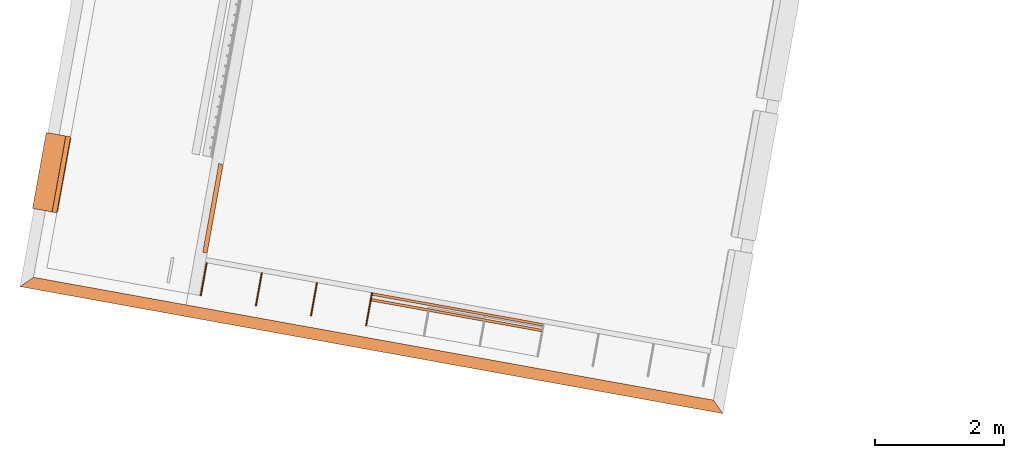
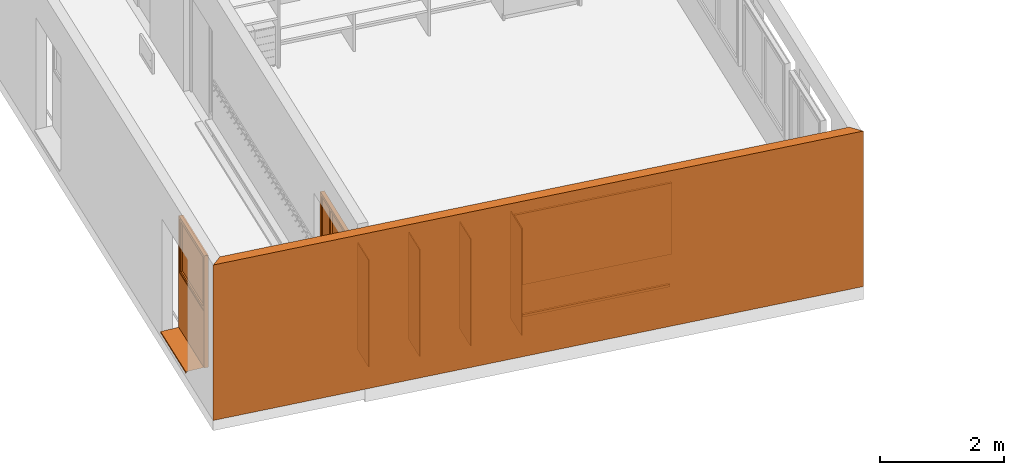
# One storey, part 8 of 52: 9 proxies.
"""IFC2X3 building model written with IfcOpenShell, lengths in metres."""

from ifc_helpers import new_model, entity, si_unit, converted_unit, derived_unit, money_unit, direction, frame, origin_with_axes, place, context, subcontext, project, spatial, polyline, outline, extrude, open_shell, faceted_brep, surface_model, source, transform, mapped, material, type_object, element, save


model = new_model("IFC2X3")

# Units and contexts
model_context = context("Model", 3, precision=1e-05, world=origin_with_axes(), true_north=direction((0.0, 1.0)))
body_context = subcontext(model_context, "Body", "Model", "MODEL_VIEW")
ifc_project = project(units=[si_unit("LENGTHUNIT", "METRE"), si_unit("AREAUNIT", "SQUARE_METRE"), si_unit("VOLUMEUNIT", "CUBIC_METRE"), converted_unit("PLANEANGLEUNIT", "DEGREE", entity("IfcPlaneAngleMeasure", 0.0174532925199), si_unit("PLANEANGLEUNIT", "RADIAN"), dimensions=[0, 0, 0, 0, 0, 0, 0]), money_unit("CHF"), converted_unit("TIMEUNIT", "Year", entity("IfcTimeMeasure", 31556926.0), si_unit("TIMEUNIT", "SECOND"), dimensions=[0, 0, 1, 0, 0, 0, 0]), si_unit("MASSUNIT", "GRAM", prefix="KILO"), si_unit("THERMODYNAMICTEMPERATUREUNIT", "DEGREE_CELSIUS"), si_unit("LUMINOUSINTENSITYUNIT", "LUMEN"), si_unit("ENERGYUNIT", "JOULE", prefix="MEGA"), derived_unit("THERMALCONDUCTANCEUNIT", [(si_unit("POWERUNIT", "WATT"), 1), (si_unit("LENGTHUNIT", "METRE"), -1), (si_unit("THERMODYNAMICTEMPERATUREUNIT", "KELVIN"), -1)]), derived_unit("SPECIFICHEATCAPACITYUNIT", [(si_unit("ENERGYUNIT", "JOULE"), 1), (si_unit("MASSUNIT", "GRAM", prefix="KILO"), -1), (si_unit("THERMODYNAMICTEMPERATUREUNIT", "KELVIN"), -1)]), derived_unit("MASSDENSITYUNIT", [(si_unit("MASSUNIT", "GRAM", prefix="KILO"), 1), (si_unit("VOLUMEUNIT", "CUBIC_METRE"), -1)])], contexts=[model_context])

# Site, building, storey
site_placement = place(None, frame((0.0, 0.0, 0.0), z_axis=(0.0, 0.0, 1.0), x_axis=(-0.177771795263, -0.984071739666, 0.0)))
site = spatial("IfcSite", under=ifc_project, at=site_placement, Name="Site", CompositionType="ELEMENT")
building_placement = place(site_placement, origin_with_axes())
building = spatial("IfcBuilding", under=site, at=building_placement, Name="Bâtiment", CompositionType="ELEMENT")
storey_placement = place(building_placement, frame((0.0, 0.0, 3.2), z_axis=(0.0, 0.0, 1.0), x_axis=(1.0, 0.0, 0.0)))
storey = spatial("IfcBuildingStorey", under=building, at=storey_placement, Name="R+1", CompositionType="ELEMENT", Elevation=3.2)

# Proxies
ifc_material_1 = material(Name="_BA banché RAL9007")
building_element_proxy_type_1 = type_object("IfcBuildingElementProxyType", Name="_M ext 18 +18 gris 360", PredefinedType="NOTDEFINED")
proxy_1_placement = place(storey_placement, frame((165.029841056, -159.217107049, -0.15), z_axis=(0.0, 0.0, 1.0), x_axis=(0.0, 1.0, 0.0)))
element("IfcBuildingElementProxy", 1, at=proxy_1_placement, inside=storey, type_object=building_element_proxy_type_1, material=ifc_material_1, Name="M ext-Sud", context=body_context, shape_type="SweptSolid", body=[
    extrude(outline(polyline([(0.0, 0.0), (11.0999569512, 0.0), (10.9199569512, 0.18), (0.18, 0.18), (0.0, 0.0)])), origin_with_axes(), (0.0, 0.0, 1.0), 3.05),
])
ifc_material_2 = material(Name="_panneau mélaminé")
building_element_proxy_type_2 = type_object("IfcBuildingElementProxyType", Name="_panneau mélaminé 40", PredefinedType="NOTDEFINED")
proxy_2_placement = place(storey_placement, frame((164.23984107, -151.107651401, 0.7), z_axis=(0.0, 0.0, 1.0), x_axis=(0.0, -1.0, 0.0)))
element("IfcBuildingElementProxy", 2, at=proxy_2_placement, inside=storey, type_object=building_element_proxy_type_2, material=ifc_material_2, Name="tableau-classe", context=body_context, shape_type="SweptSolid", body=[
    extrude(outline(polyline([(0.0095, 0.0), (2.6995, 0.0), (2.6995, 0.04), (0.0095, 0.04), (0.0095, 0.0)])), origin_with_axes(), (0.0, 0.0, 1.0), 1.4),
])
building_element_proxy_type_3 = type_object("IfcBuildingElementProxyType", Name="_panneau mélaminé 19", PredefinedType="NOTDEFINED")
proxy_3_placement = place(storey_placement, frame((164.669841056, -156.418137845, 0.0), z_axis=(0.0, 0.0, 1.0), x_axis=(-1.0, 0.0, 0.0)))
element("IfcBuildingElementProxy", 3, at=proxy_3_placement, inside=storey, type_object=building_element_proxy_type_3, material=ifc_material_2, Name="cloison pl-classe", context=body_context, shape_type="SweptSolid", body=[
    extrude(outline(polyline([(0.0, 0.0), (0.519999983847, 0.0), (0.519999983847, 0.019), (0.0, 0.019), (0.0, 0.0)])), origin_with_axes(), (0.0, 0.0, 1.0), 2.1),
])
for number, where, z_axis, x_axis, name in (
    (4, (164.669841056, -155.556651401, 0.0), (0.0, 0.0, 1.0), (-1.0, 0.0, 0.0), "cloison pl-classe"),
    (5, (164.669841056, -154.686651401, 0.0), (0.0, 0.0, 1.0), (-1.0, 0.0, 0.0), "cloison pl-classe"),
):
    element("IfcBuildingElementProxy", number, at=place(storey_placement, frame(where, z_axis=z_axis, x_axis=x_axis)), inside=storey, type_object=building_element_proxy_type_3, material=ifc_material_2, Name=name, context=body_context, shape_type="SweptSolid", body=[
        extrude(outline(polyline([(0.0, -0.0095), (0.519999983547, -0.0095), (0.519999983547, 0.0095), (0.0, 0.0095), (0.0, -0.0095)])), origin_with_axes(), (0.0, 0.0, 1.0), 2.1),
    ])
proxy_4_placement = place(storey_placement, frame((164.669841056, -153.816651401, 0.0), z_axis=(0.0, 0.0, 1.0), x_axis=(-1.0, 0.0, 0.0)))
element("IfcBuildingElementProxy", 6, at=proxy_4_placement, inside=storey, type_object=building_element_proxy_type_3, material=ifc_material_2, Name="cloison pl-classe", context=body_context, shape_type="SweptSolid", body=[
    extrude(outline(polyline([(0.0, -0.0095), (0.519999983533, -0.0095), (0.519999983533, 0.0095), (0.0, 0.0095), (0.0, -0.0095)])), origin_with_axes(), (0.0, 0.0, 1.0), 2.1),
])
ifc_material_3 = material(Name="Matériau de construction IFC")
building_element_proxy_type_4 = type_object("IfcBuildingElementProxyType", Name="Porte avec tierce vitrée côté 2 21", PredefinedType="NOTDEFINED")
shared_shape_1 = source(origin_with_axes(), body_context, "Body", "SurfaceModel", [
    faceted_brep([(0.0, 0.179999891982, 0.0), (0.05, 0.179999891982, 0.0), (0.05, 0.109999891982, 0.0), (0.0, 0.109999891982, 0.0), (0.0, 0.179999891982, 2.05), (0.05, 0.179999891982, 2.05), (0.05, 0.179999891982, 0.2), (0.05, 0.109999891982, 0.2), (0.05, 0.109999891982, 2.05), (0.0, 0.109999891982, 2.05)], [[[0, 1, 2, 3]], [[0, 4, 5, 6, 1]], [[1, 6, 7, 2]], [[3, 2, 7, 8, 9]], [[4, 0, 3, 9]], [[5, 4, 9, 8]], [[6, 5, 8, 7]]]),
    faceted_brep([(0.49, 0.139999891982, 0.0), (0.49, 0.139999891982, 2.05), (0.49, 0.109999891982, 2.05), (0.49, 0.109999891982, 0.0), (0.47, 0.139999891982, 2.05), (0.47, 0.139999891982, 0.0), (0.47, 0.179999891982, 2.05), (0.44, 0.179999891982, 2.05), (0.44, 0.109999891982, 2.05), (0.44, 0.109999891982, 0.0), (0.44, 0.109999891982, 0.2), (0.44, 0.179999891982, 0.0), (0.47, 0.179999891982, 0.0), (0.44, 0.179999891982, 0.2)], [[[0, 1, 2, 3]], [[4, 1, 0, 5]], [[4, 6, 7, 8, 2, 1]], [[9, 3, 2, 8, 10]], [[5, 0, 3, 9, 11, 12]], [[6, 4, 5, 12]], [[6, 12, 11, 13, 7]], [[13, 10, 8, 7]], [[11, 9, 10, 13]]]),
    faceted_brep([(0.05, 0.179999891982, 0.2), (0.05, 0.179999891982, 0.0), (0.05, 0.109999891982, 0.0), (0.05, 0.109999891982, 0.2), (0.44, 0.179999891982, 0.2), (0.44, 0.179999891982, 0.0), (0.44, 0.109999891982, 0.0), (0.44, 0.109999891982, 0.2)], [[[0, 1, 2, 3]], [[0, 4, 5, 1]], [[1, 5, 6, 2]], [[3, 2, 6, 7]], [[4, 0, 3, 7]], [[5, 4, 7, 6]]]),
    faceted_brep([(1.37, 0.139999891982, 2.05), (1.35, 0.139999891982, 2.05), (1.35, 0.109999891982, 2.05), (1.4, 0.109999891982, 2.05), (1.4, 0.179999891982, 2.05), (1.37, 0.179999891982, 2.05), (1.37, 0.139999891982, 0.0), (1.35, 0.139999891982, 0.0), (1.35, 0.109999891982, 0.0), (1.4, 0.109999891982, 0.0), (1.4, 0.179999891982, 0.0), (1.37, 0.179999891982, 0.0)], [[[0, 1, 2, 3, 4, 5]], [[1, 0, 6, 7]], [[1, 7, 8, 2]], [[3, 2, 8, 9]], [[4, 3, 9, 10]], [[11, 5, 4, 10]], [[0, 5, 11, 6]], [[6, 11, 10, 9, 8, 7]]]),
    faceted_brep([(0.47, 0.179999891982, 2.07), (0.47, 0.179999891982, 2.05), (0.44, 0.179999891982, 2.05), (0.05, 0.179999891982, 2.05), (0.0, 0.179999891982, 2.05), (0.0, 0.179999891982, 2.1), (1.4, 0.179999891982, 2.1), (1.4, 0.179999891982, 2.05), (1.37, 0.179999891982, 2.05), (1.37, 0.179999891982, 2.07), (0.47, 0.139999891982, 2.07), (0.47, 0.139999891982, 2.05), (1.35, 0.139999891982, 2.05), (1.35, 0.109999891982, 2.05), (0.49, 0.109999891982, 2.05), (0.44, 0.109999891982, 2.05), (0.05, 0.109999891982, 2.05), (0.0, 0.109999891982, 2.05), (0.0, 0.109999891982, 2.1), (1.4, 0.109999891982, 2.1), (1.4, 0.109999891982, 2.05), (1.37, 0.139999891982, 2.05), (1.37, 0.139999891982, 2.07)], [[[0, 1, 2, 3, 4, 5, 6, 7, 8, 9]], [[1, 0, 10, 11]], [[11, 12, 13, 14, 15, 2, 1]], [[2, 15, 16, 3]], [[3, 16, 17, 4]], [[4, 17, 18, 5]], [[5, 18, 19, 6]], [[6, 19, 20, 7]], [[21, 8, 7, 20, 13, 12]], [[9, 8, 21, 22]], [[0, 9, 22, 10]], [[21, 12, 11, 10, 22]], [[13, 20, 19, 18, 17, 16, 15, 14]]]),
    faceted_brep([(1.37, 0.179999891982, 0.0), (1.37, 0.139999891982, 0.0), (0.47, 0.139999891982, 0.0), (0.47, 0.179999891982, 0.0), (1.37, 0.179999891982, 2.07), (1.37, 0.139999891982, 2.07), (0.47, 0.139999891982, 2.07), (0.47, 0.179999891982, 2.07)], [[[0, 1, 2, 3]], [[4, 5, 1, 0]], [[1, 5, 6, 2]], [[3, 2, 6, 7]], [[0, 3, 7, 4]], [[7, 6, 5, 4]]]),
    surface_model("IfcShellBasedSurfaceModel", [(0.05, 0.144999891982, 0.2), (0.05, 0.144999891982, 2.05), (0.44, 0.144999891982, 2.05), (0.44, 0.144999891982, 0.2)], [open_shell([[[0, 1, 2, 3]]])]),
    surface_model("IfcShellBasedSurfaceModel", [(0.05, 0.134999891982, 0.2), (0.44, 0.134999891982, 0.2), (0.44, 0.134999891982, 2.05), (0.05, 0.134999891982, 2.05)], [open_shell([[[0, 1, 2, 3]]])]),
])
proxy_5_placement = place(storey_placement, frame((162.599841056, -156.62715293, 0.0), z_axis=(0.0, 0.0, 1.0), x_axis=(1.0, 0.0, 0.0)))
element("IfcBuildingElementProxy", 7, at=proxy_5_placement, inside=storey, type_object=building_element_proxy_type_4, material=ifc_material_3, Name="20", context=body_context, shape_type="MappedRepresentation", body=[
    mapped(shared_shape_1, transform((0.0, 0.0, 0.0))),
])
ifc_material_4 = material(Name="_Bois contreplaqué")
building_element_proxy_type_5 = type_object("IfcBuildingElementProxyType", Name="_Bois contreplaqué 50", PredefinedType="NOTDEFINED")
proxy_6_placement = place(storey_placement, frame((164.149841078, -153.807151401, 0.05), z_axis=(0.0, 0.0, 1.0), x_axis=(1.0, 0.0, 0.0)))
element("IfcBuildingElementProxy", 8, at=proxy_6_placement, inside=storey, type_object=building_element_proxy_type_5, material=ifc_material_4, Name="socle-tableau", context=body_context, shape_type="SweptSolid", body=[
    extrude(outline(polyline([(0.0, 0.0), (0.0400000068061, 0.0), (0.0400000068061, 2.69), (0.0, 2.69), (0.0, 0.0)])), frame((0.0, 0.0, -0.05), z_axis=(0.0, 0.0, 1.0), x_axis=(1.0, 0.0, 0.0)), (0.0, 0.0, 1.0), 0.05),
])
building_element_proxy_type_6 = type_object("IfcBuildingElementProxyType", Name="Fenêtre variable 21", PredefinedType="NOTDEFINED")
shared_shape_2 = source(origin_with_axes(), body_context, "Body", "SurfaceModel", [
    surface_model("IfcShellBasedSurfaceModel", [(1.2, 0.284, 0.02), (0.0, 0.284, 0.02), (0.0, 0.284, 0.01), (1.2, 0.284, 0.01), (0.0, -0.025, -0.00087719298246), (1.2, -0.025, -0.00087719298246), (0.0, -0.025, -0.0308771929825), (1.2, -0.025, -0.0308771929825), (0.0, -0.0125, -0.0183771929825), (1.2, -0.0125, -0.0183771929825)], [open_shell([[[0, 1, 2, 3]], [[3, 2, 4, 5]], [[5, 4, 6, 7]], [[7, 6, 8, 9]]])]),
    faceted_brep([(1.18, 0.36, 2.169), (1.18, 0.295, 2.169), (1.17, 0.295, 2.169), (1.17, 0.285, 2.169), (1.2, 0.285, 2.169), (1.2, 0.36, 2.169), (1.18, 0.36, 1.095), (1.18, 0.295, 1.095), (1.17, 0.295, 1.105), (1.17, 0.295, 1.095), (1.17, 0.285, 1.105), (1.17, 0.285, 1.055), (1.17, 0.285, 0.05), (1.2, 0.285, 0.05), (1.2, 0.36, 0.05), (1.17, 0.36, 0.05), (1.17, 0.36, 1.055), (1.17, 0.36, 1.095)], [[[0, 1, 2, 3, 4, 5]], [[1, 0, 6, 7]], [[8, 2, 1, 7, 9]], [[2, 8, 10, 3]], [[10, 11, 12, 13, 4, 3]], [[5, 4, 13, 14]], [[6, 0, 5, 14, 15, 16, 17]], [[6, 17, 9, 7]], [[9, 17, 16, 11, 10, 8]], [[15, 12, 11, 16]], [[14, 13, 12, 15]]]),
    faceted_brep([(0.03, 0.295, 2.169), (0.02, 0.295, 2.169), (0.02, 0.36, 2.169), (0.0, 0.36, 2.169), (0.0, 0.285, 2.169), (0.03, 0.285, 2.169), (0.03, 0.295, 1.105), (0.03, 0.295, 1.095), (0.02, 0.295, 1.095), (0.02, 0.36, 1.095), (0.03, 0.36, 1.095), (0.03, 0.36, 1.055), (0.03, 0.36, 0.05), (0.0, 0.36, 0.05), (0.0, 0.285, 0.05), (0.03, 0.285, 0.05), (0.03, 0.285, 1.055), (0.03, 0.285, 1.105)], [[[0, 1, 2, 3, 4, 5]], [[1, 0, 6, 7, 8]], [[9, 2, 1, 8]], [[9, 10, 11, 12, 13, 3, 2]], [[13, 14, 4, 3]], [[14, 15, 16, 17, 5, 4]], [[6, 0, 5, 17]], [[7, 6, 17, 16, 11, 10]], [[10, 9, 8, 7]], [[11, 16, 15, 12]], [[12, 15, 14, 13]]]),
    faceted_brep([(1.17, 0.295, 1.105), (0.03, 0.295, 1.105), (0.03, 0.285, 1.105), (1.17, 0.285, 1.105), (0.03, 0.295, 1.095), (1.17, 0.295, 1.095), (0.03, 0.36, 1.095), (0.03, 0.36, 1.055), (0.03, 0.285, 1.055), (1.17, 0.285, 1.055), (1.17, 0.36, 1.055), (1.17, 0.36, 1.095)], [[[0, 1, 2, 3]], [[4, 1, 0, 5]], [[4, 6, 7, 8, 2, 1]], [[8, 9, 3, 2]], [[5, 0, 3, 9, 10, 11]], [[11, 6, 4, 5]], [[6, 11, 10, 7]], [[10, 9, 8, 7]]]),
    faceted_brep([(1.18, 0.36, 2.169), (1.18, 0.36, 2.179), (0.02, 0.36, 2.179), (0.02, 0.36, 2.169), (0.0, 0.36, 2.169), (0.0, 0.36, 2.199), (1.2, 0.36, 2.199), (1.2, 0.36, 2.169), (1.18, 0.295, 2.169), (1.18, 0.295, 2.179), (0.02, 0.295, 2.179), (0.02, 0.295, 2.169), (0.03, 0.295, 2.169), (0.03, 0.285, 2.169), (0.0, 0.285, 2.169), (0.0, 0.285, 2.199), (1.2, 0.285, 2.199), (1.2, 0.285, 2.169), (1.17, 0.285, 2.169), (1.17, 0.295, 2.169)], [[[0, 1, 2, 3, 4, 5, 6, 7]], [[1, 0, 8, 9]], [[2, 1, 9, 10]], [[3, 2, 10, 11]], [[11, 12, 13, 14, 4, 3]], [[4, 14, 15, 5]], [[5, 15, 16, 6]], [[6, 16, 17, 7]], [[8, 0, 7, 17, 18, 19]], [[12, 11, 10, 9, 8, 19]], [[12, 19, 18, 13]], [[14, 13, 18, 17, 16, 15]]]),
    faceted_brep([(1.17, 0.285, 0.05), (1.2, 0.285, 0.05), (1.2, 0.36, 0.05), (1.17, 0.36, 0.05), (0.03, 0.285, 0.05), (0.0, 0.285, 0.05), (0.0, 0.285, 0.0), (1.2, 0.285, 0.0), (1.2, 0.36, 0.0), (0.0, 0.36, 0.0), (0.0, 0.36, 0.05), (0.03, 0.36, 0.05)], [[[0, 1, 2, 3]], [[0, 4, 5, 6, 7, 1]], [[1, 7, 8, 2]], [[3, 2, 8, 9, 10, 11]], [[4, 0, 3, 11]], [[5, 4, 11, 10]], [[6, 5, 10, 9]], [[7, 6, 9, 8]]]),
    faceted_brep([(1.12, 0.295, 2.119), (1.18, 0.295, 2.119), (1.18, 0.37, 2.119), (1.12, 0.37, 2.119), (1.12, 0.295, 1.155), (1.18, 0.295, 1.155), (1.18, 0.37, 1.155), (1.12, 0.37, 1.155)], [[[0, 1, 2, 3]], [[0, 4, 5, 1]], [[1, 5, 6, 2]], [[3, 2, 6, 7]], [[4, 0, 3, 7]], [[5, 4, 7, 6]]]),
    faceted_brep([(0.08, 0.295, 1.155), (0.02, 0.295, 1.155), (0.02, 0.37, 1.155), (0.08, 0.37, 1.155), (0.08, 0.295, 2.119), (0.02, 0.295, 2.119), (0.02, 0.37, 2.119), (0.08, 0.37, 2.119)], [[[0, 1, 2, 3]], [[0, 4, 5, 1]], [[1, 5, 6, 2]], [[3, 2, 6, 7]], [[4, 0, 3, 7]], [[5, 4, 7, 6]]]),
    faceted_brep([(0.02, 0.295, 1.095), (0.02, 0.295, 1.155), (0.02, 0.37, 1.155), (0.02, 0.37, 1.095), (1.18, 0.295, 1.095), (1.18, 0.295, 1.155), (1.12, 0.295, 1.155), (0.08, 0.295, 1.155), (0.08, 0.37, 1.155), (1.12, 0.37, 1.155), (1.18, 0.37, 1.155), (1.18, 0.37, 1.095)], [[[0, 1, 2, 3]], [[0, 4, 5, 6, 7, 1]], [[1, 7, 8, 2]], [[3, 2, 8, 9, 10, 11]], [[4, 0, 3, 11]], [[5, 4, 11, 10]], [[6, 5, 10, 9]], [[7, 6, 9, 8]]]),
    faceted_brep([(1.18, 0.295, 2.179), (1.18, 0.295, 2.119), (1.18, 0.37, 2.119), (1.18, 0.37, 2.179), (0.02, 0.295, 2.179), (0.02, 0.295, 2.119), (0.08, 0.295, 2.119), (1.12, 0.295, 2.119), (1.12, 0.37, 2.119), (0.08, 0.37, 2.119), (0.02, 0.37, 2.119), (0.02, 0.37, 2.179)], [[[0, 1, 2, 3]], [[0, 4, 5, 6, 7, 1]], [[1, 7, 8, 2]], [[3, 2, 8, 9, 10, 11]], [[4, 0, 3, 11]], [[5, 4, 11, 10]], [[6, 5, 10, 9]], [[7, 6, 9, 8]]]),
    surface_model("IfcShellBasedSurfaceModel", [(1.12, 0.3225, 1.155), (1.12, 0.3225, 2.119), (0.08, 0.3225, 2.119), (0.08, 0.3225, 1.155)], [open_shell([[[0, 1, 2, 3]]])]),
    surface_model("IfcShellBasedSurfaceModel", [(1.12, 0.3425, 1.155), (0.08, 0.3425, 1.155), (0.08, 0.3425, 2.119), (1.12, 0.3425, 2.119)], [open_shell([[[0, 1, 2, 3]]])]),
    surface_model("IfcShellBasedSurfaceModel", [(1.17, 0.285, 0.05), (1.17, 0.285, 1.055), (0.03, 0.285, 1.055), (0.03, 0.285, 0.05)], [open_shell([[[0, 1, 2, 3]]])]),
    surface_model("IfcShellBasedSurfaceModel", [(1.17, 0.305, 0.05), (0.03, 0.305, 0.05), (0.03, 0.305, 1.055), (1.17, 0.305, 1.055)], [open_shell([[[0, 1, 2, 3]]])]),
])
proxy_7_placement = place(storey_placement, frame((162.599841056, -159.217107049, 0.001), z_axis=(0.0, 0.0, 1.0), x_axis=(1.0, 0.0, 0.0)))
element("IfcBuildingElementProxy", 9, at=proxy_7_placement, inside=storey, type_object=building_element_proxy_type_6, material=ifc_material_3, Name="Fen couloir", context=body_context, shape_type="MappedRepresentation", body=[
    mapped(shared_shape_2, transform((0.0, 0.0, 0.0))),
])

save(model, "model.ifc")
